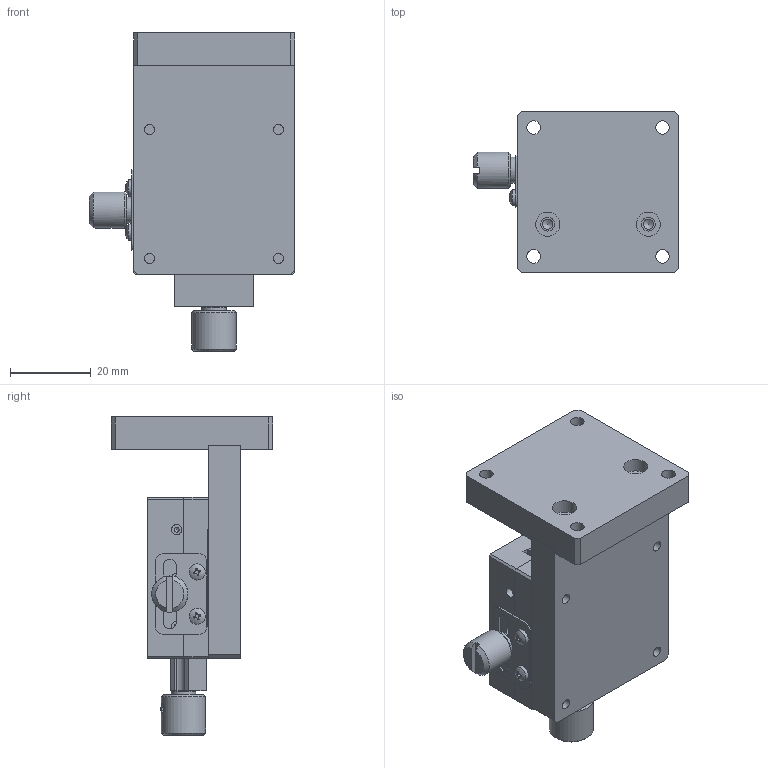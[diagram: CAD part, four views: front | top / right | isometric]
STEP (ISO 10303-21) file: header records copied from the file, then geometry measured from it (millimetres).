
FILE_DESCRIPTION (( 'STEP AP203' ), '1' );
FILE_NAME ('BFZ40.STEP', '2024-07-31T03:54:00', ( 'Windows User' ), ( 'P R C' ), 'SwSTEP 2.0', 'SolidWorks 2024', '' );
FILE_SCHEMA (( 'CONFIG_CONTROL_DESIGN' ));
Length unit declared in the file: millimetre
Products named in the file (1): BFZ40
Bounding box: 50.95 x 40 x 79 mm (x, y, z)
Volume: 51953.1 mm3; surface area: 26801.4 mm2
Topology: 17 solids, 17 shells, 738 faces, 1922 edges, 1262 vertices
Faces by surface type: plane 493, cylinder 106, bspline 87, cone 48, torus 2, sphere 2
Full cylindrical faces by diameter (mm): 1.6 x6, 2 x4, 2.05 x3, 2.4 x2, 2.5 x21, 2.7 x2, 2.9 x1, 3 x2, 3.4 x10, 3.8 x2, 4 x5, 4.1 x1, 4.3 x2, 4.5 x1, 4.6 x2, 4.7 x1, 6 x8, 6.094 x1, 6.5 x5, 6.9 x1, 7 x1, 9 x1, 11 x1
Entity records: 43854 total; most frequent: CARTESIAN_POINT 27247, ORIENTED_EDGE 3508, DIRECTION 2877, EDGE_CURVE 1754, VERTEX_POINT 1223, VECTOR 1037, LINE 1037, EDGE_LOOP 985
